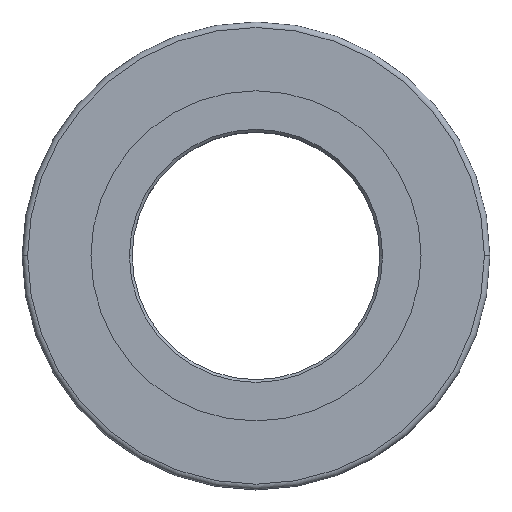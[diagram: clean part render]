
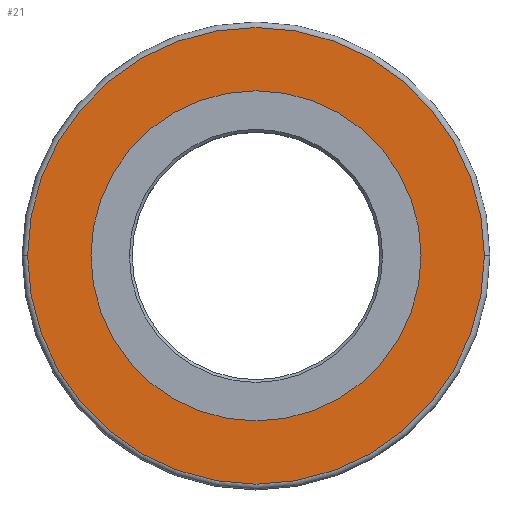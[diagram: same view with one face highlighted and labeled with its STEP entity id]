
A CAD part, top view. The second image highlights one B-rep face of the part: STEP entity #21.
In plain terms, the highlighted planar face has unit normal (0, 0, 1).
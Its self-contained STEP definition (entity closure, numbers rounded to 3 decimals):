
#6 = FACE_BOUND ( 'NONE', #442, .T. ) ;
#10 = CARTESIAN_POINT ( 'NONE',  ( 0., 0., 30. ) ) ;
#19 = DIRECTION ( 'NONE',  ( 0., 0., 1. ) ) ;
#21 = ADVANCED_FACE ( 'NONE', ( #6, #50 ), #23, .T. ) ;
#23 = PLANE ( 'NONE',  #490 ) ;
#32 = CIRCLE ( 'NONE', #519, 41.5 ) ;
#50 = FACE_OUTER_BOUND ( 'NONE', #200, .T. ) ;
#80 = VERTEX_POINT ( 'NONE', #139 ) ;
#99 = DIRECTION ( 'NONE',  ( 1., 0., 0. ) ) ;
#109 = DIRECTION ( 'NONE',  ( 1., 0., 0. ) ) ;
#113 = AXIS2_PLACEMENT_3D ( 'NONE', #10, #19, #540 ) ;
#119 = EDGE_CURVE ( 'NONE', #341, #178, #528, .T. ) ;
#139 = CARTESIAN_POINT ( 'NONE',  ( 41.5, 0., 30. ) ) ;
#148 = DIRECTION ( 'NONE',  ( 1., 0., 0. ) ) ;
#150 = DIRECTION ( 'NONE',  ( 0., 0., 1. ) ) ;
#163 = VERTEX_POINT ( 'NONE', #267 ) ;
#164 = CARTESIAN_POINT ( 'NONE',  ( 0., 0., 30. ) ) ;
#177 = CARTESIAN_POINT ( 'NONE',  ( 30., 0., 30. ) ) ;
#178 = VERTEX_POINT ( 'NONE', #322 ) ;
#188 = DIRECTION ( 'NONE',  ( 0., 0., 1. ) ) ;
#196 = CIRCLE ( 'NONE', #541, 41.5 ) ;
#200 = EDGE_LOOP ( 'NONE', ( #383, #485 ) ) ;
#258 = AXIS2_PLACEMENT_3D ( 'NONE', #421, #188, #148 ) ;
#267 = CARTESIAN_POINT ( 'NONE',  ( -41.5, 0., 30. ) ) ;
#322 = CARTESIAN_POINT ( 'NONE',  ( -30., 0., 30. ) ) ;
#340 = DIRECTION ( 'NONE',  ( 1., 0., 0. ) ) ;
#341 = VERTEX_POINT ( 'NONE', #177 ) ;
#383 = ORIENTED_EDGE ( 'NONE', *, *, #568, .T. ) ;
#421 = CARTESIAN_POINT ( 'NONE',  ( 0., 0., 30. ) ) ;
#442 = EDGE_LOOP ( 'NONE', ( #576, #542 ) ) ;
#448 = CARTESIAN_POINT ( 'NONE',  ( 0., 0., 30. ) ) ;
#473 = CARTESIAN_POINT ( 'NONE',  ( 0., 0., 30. ) ) ;
#485 = ORIENTED_EDGE ( 'NONE', *, *, #534, .T. ) ;
#490 = AXIS2_PLACEMENT_3D ( 'NONE', #473, #150, #109 ) ;
#519 = AXIS2_PLACEMENT_3D ( 'NONE', #448, #577, #99 ) ;
#528 = CIRCLE ( 'NONE', #258, 30. ) ;
#534 = EDGE_CURVE ( 'NONE', #163, #80, #32, .T. ) ;
#538 = EDGE_CURVE ( 'NONE', #178, #341, #546, .T. ) ;
#540 = DIRECTION ( 'NONE',  ( 1., 0., 0. ) ) ;
#541 = AXIS2_PLACEMENT_3D ( 'NONE', #164, #574, #340 ) ;
#542 = ORIENTED_EDGE ( 'NONE', *, *, #538, .F. ) ;
#546 = CIRCLE ( 'NONE', #113, 30. ) ;
#568 = EDGE_CURVE ( 'NONE', #80, #163, #196, .T. ) ;
#574 = DIRECTION ( 'NONE',  ( 0., 0., 1. ) ) ;
#576 = ORIENTED_EDGE ( 'NONE', *, *, #119, .F. ) ;
#577 = DIRECTION ( 'NONE',  ( 0., 0., 1. ) ) ;
